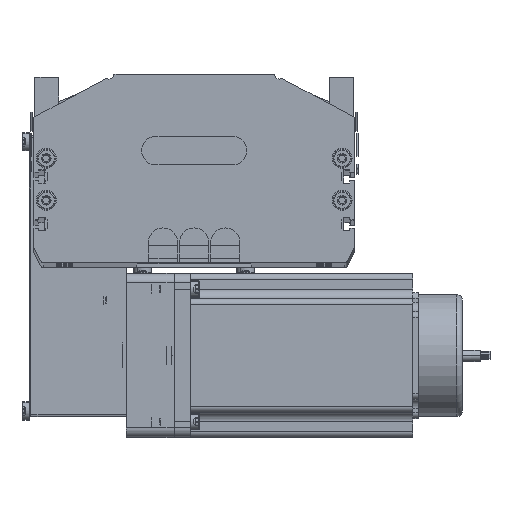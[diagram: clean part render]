
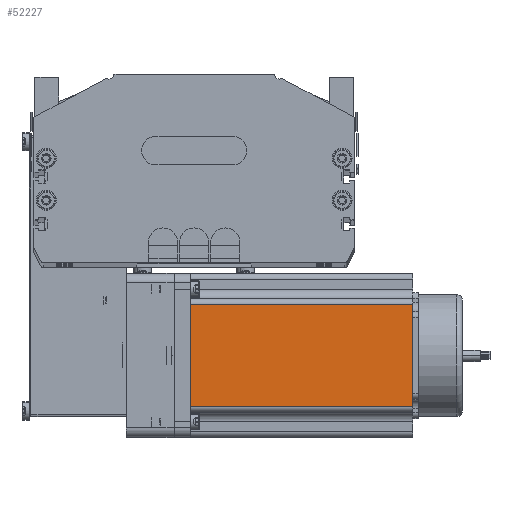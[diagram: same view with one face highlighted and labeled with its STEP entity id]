
A CAD part, top view. The second image highlights one B-rep face of the part: STEP entity #52227.
In plain terms, the highlighted planar face has unit normal (0, 0, 1) as drawn and (0, -1, 0) by its records, which use the part's own axes.
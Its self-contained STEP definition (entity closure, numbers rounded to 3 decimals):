
#52225 = VERTEX_POINT ( 'NONE', #55779 ) ;
#52226 = VERTEX_POINT ( 'NONE', #55792 ) ;
#52227 = ADVANCED_FACE ( 'NONE', ( #55766 ), #55764, .F. ) ;
#52228 = EDGE_CURVE ( 'NONE', #52233, #52225, #55781, .T. ) ;
#52229 = ORIENTED_EDGE ( 'NONE', *, *, #52279, .T. ) ;
#52231 = VERTEX_POINT ( 'NONE', #55763 ) ;
#52232 = EDGE_CURVE ( 'NONE', #52233, #52231, #55787, .T. ) ;
#52233 = VERTEX_POINT ( 'NONE', #55854 ) ;
#52234 = ORIENTED_EDGE ( 'NONE', *, *, #52228, .T. ) ;
#52258 = ORIENTED_EDGE ( 'NONE', *, *, #52232, .F. ) ;
#52268 = ORIENTED_EDGE ( 'NONE', *, *, #52287, .T. ) ;
#52279 = EDGE_CURVE ( 'NONE', #52226, #52231, #55938, .T. ) ;
#52287 = EDGE_CURVE ( 'NONE', #52225, #52226, #55940, .T. ) ;
#52302 = EDGE_LOOP ( 'NONE', ( #52268, #52229, #52258, #52234 ) ) ;
#55717 = AXIS2_PLACEMENT_3D ( 'NONE', #55785, #55758, #55867 ) ;
#55758 = DIRECTION ( 'NONE',  ( 0., 1., 0. ) ) ;
#55763 = CARTESIAN_POINT ( 'NONE',  ( 69.74, 0., 116.5 ) ) ;
#55764 = PLANE ( 'NONE',  #55717 ) ;
#55766 = FACE_OUTER_BOUND ( 'NONE', #52302, .T. ) ;
#55777 = DIRECTION ( 'NONE',  ( 1., 0., 0. ) ) ;
#55778 = CARTESIAN_POINT ( 'NONE',  ( 0., 0., 116.5 ) ) ;
#55779 = CARTESIAN_POINT ( 'NONE',  ( 16.16, 0., 0. ) ) ;
#55780 = CARTESIAN_POINT ( 'NONE',  ( 16.16, 0., 116.5 ) ) ;
#55781 = LINE ( 'NONE', #55780, #55860 ) ;
#55785 = CARTESIAN_POINT ( 'NONE',  ( 0., 0., 116.5 ) ) ;
#55787 = LINE ( 'NONE', #55778, #55852 ) ;
#55792 = CARTESIAN_POINT ( 'NONE',  ( 69.74, 0., 0. ) ) ;
#55852 = VECTOR ( 'NONE', #55777, 1000. ) ;
#55854 = CARTESIAN_POINT ( 'NONE',  ( 16.16, 0., 116.5 ) ) ;
#55858 = DIRECTION ( 'NONE',  ( 0., 0., -1. ) ) ;
#55860 = VECTOR ( 'NONE', #55858, 1000. ) ;
#55867 = DIRECTION ( 'NONE',  ( 0., 0., 1. ) ) ;
#55924 = DIRECTION ( 'NONE',  ( 1., 0., 0. ) ) ;
#55926 = VECTOR ( 'NONE', #55924, 1000. ) ;
#55928 = CARTESIAN_POINT ( 'NONE',  ( 0., 0., 0. ) ) ;
#55929 = DIRECTION ( 'NONE',  ( 0., 0., 1. ) ) ;
#55931 = VECTOR ( 'NONE', #55929, 1000. ) ;
#55932 = CARTESIAN_POINT ( 'NONE',  ( 69.74, 0., 116.5 ) ) ;
#55938 = LINE ( 'NONE', #55932, #55931 ) ;
#55940 = LINE ( 'NONE', #55928, #55926 ) ;
